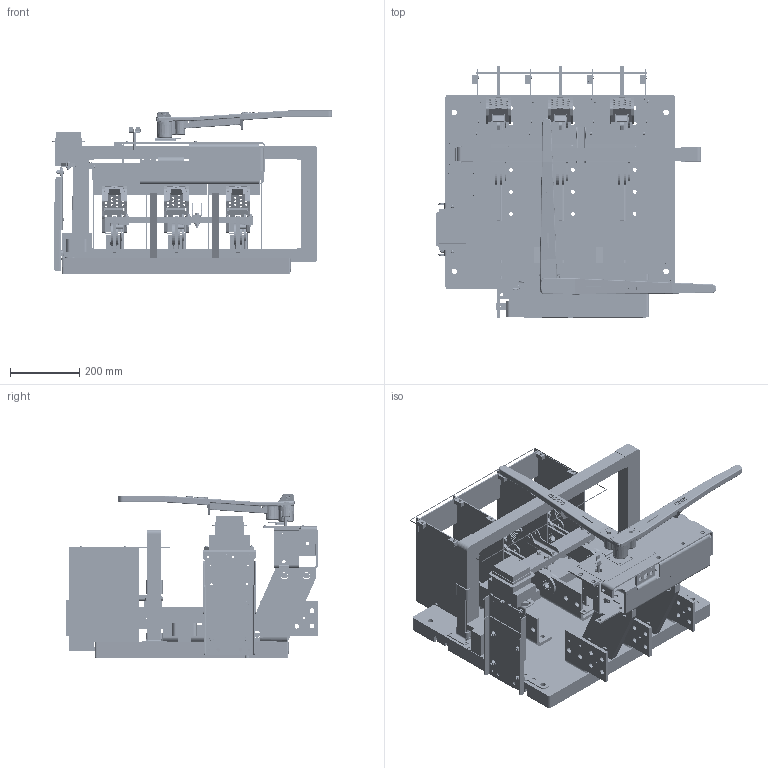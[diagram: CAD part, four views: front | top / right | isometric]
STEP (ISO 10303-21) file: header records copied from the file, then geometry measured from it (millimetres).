
FILE_DESCRIPTION(/* description */ (''),/* implementation_level */ '2;1');
FILE_NAME(/* name */ 'H:\switches\3d-templates\catalog-switches-iges-files\CATALOG-VL368G5.stp',/* time_stamp */ '2022-03-22T14:10:02-05:00',/* author */ ('MKingston'),/* organization */ (''),/* preprocessor_version */ 'ST-DEVELOPER v18.1',/* originating_system */ 'Autodesk Inventor 2022',/* authorisation */ '');
FILE_SCHEMA (('AUTOMOTIVE_DESIGN { 1 0 10303 214 3 1 1 }'));
Products named in the file (68): catalog-vl368; 277; 668-D; 668-E; 668-C; 223-d-transparent; catalog-368-blade-assy; 67-AL; 67-AR; 67-fc3; 67-gc3; 235-b; 230-a; catalog-arc-chute-assy; 50-QRX; 50-QLX; 56-QJT; 56-QJB; 56-QJS; 57-QJSB; 57-QJST; 363-da; 363-db; 246-a; 255-z; 255-bha; 178-c; 178-b; 255-c; gfi-ring-assembly; GFS10X24; 277-ma; gfr-1-mounting-assembly; 277-L1T; 277-l2; 277-l3; 277-l4; gfr-1; Bolted Connection; ANSI B18.6.3 - 10 - 32 x 7/8 SR HMS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
Assembly tree (190 placements, depth 4):
  catalog-vl368
    277
    668-D  x3
    668-E  x3
    668-C  x3
    223-d-transparent
    catalog-368-blade-assy  x3
      67-AL
      67-AR
      67-fc3
      67-gc3
    235-b
    230-a
    catalog-arc-chute-assy  x3
      50-QRX
      50-QLX
      56-QJT
      56-QJB
      56-QJS
      57-QJSB
      57-QJST
      363-da
      363-db
    246-a  x2
    178-b  x8
    255-z
    255-bha  x4
    178-c  x8
    255-c
    gfi-ring-assembly
      GFS10X24
      277-ma
    gfr-1-mounting-assembly
      277-L1T
      277-l2
      277-l3
      277-l4
      gfr-1
      Bolted Connection
        ANSI B18.22.1 - No. 10 - Type A  x4
        ASME B18.21.1 - No. 10. Carbon Steel, ETLWTB(1)  x4
        ANSI B18.6.3 - 10 - 32 x 7/8 SR HMS  x2
        ANSI B18.2.2 - 10 - 32, HMSNI  x2
      Bolted Connection_1
        ANSI B18.5 - 1/4-20 UNC - 0.75, RHBI  x6
        ASTM F436 - 1/4, CW  x6
        ASME B18.21.1 - 1/4. Carbon Steel, HITLWTB(1)  x6
        ANSI B18.2.2 - 1/4 - 20, HNI  x6
    transformer
    800-bck2
    800-fck-1
    221-kpa
    452
    481-a
    672-ha
    67-ZBA  x3
    661-C  x3
    254  x8
    Bolted Connection_2
      ANSI B18.22.1 - 1/4 - narrow - Type A  x6
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Bounding box: 807.14 x 725.27 x 469.37 mm (x, y, z)
Volume: 19412725.1 mm3; surface area: 4372695.2 mm2
Topology: 215 solids, 216 shells, 7922 faces, 20327 edges, 13167 vertices
Faces by surface type: plane 4115, cylinder 2398, cone 678, bspline 461, sphere 200, torus 70
Full cylindrical faces by diameter (mm): 1.702 x8, 3.175 x4, 3.302 x2, 3.683 x8, 3.759 x12, 3.962 x11, 4.089 x4, 4.166 x32, 4.305 x42, 4.366 x2, 4.496 x24, 4.653 x4, 4.762 x4, 4.775 x8, 4.801 x8, 4.826 x2, 4.902 x8, 4.915 x24, 4.953 x4, 4.978 x11, 5.462 x4, 5.537 x3, 5.556 x5, 5.563 x4, 5.791 x6, 6.35 x58, 6.528 x53, 6.604 x8, 7.137 x18, 7.144 x14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
Entity records: 125021 total; most frequent: CARTESIAN_POINT 31413, DIRECTION 18833, ORIENTED_EDGE 18694, EDGE_CURVE 9355, AXIS2_PLACEMENT_3D 6586, VERTEX_POINT 6056, LINE 5661, VECTOR 5661
